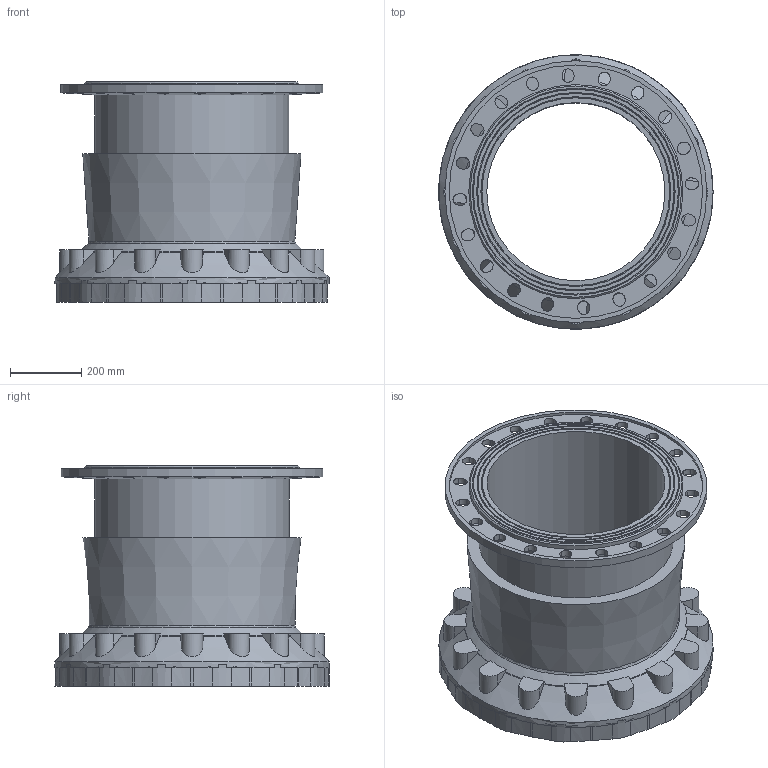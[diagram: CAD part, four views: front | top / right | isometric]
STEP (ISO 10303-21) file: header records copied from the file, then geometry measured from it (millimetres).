
FILE_DESCRIPTION (( 'STEP AP203' ), '1' );
FILE_NAME ('O_633_00_DN500_AA0.step', '2018-07-03T05:52:21', ( 'Windows User' ), ( 'AVK' ), 'SwSTEP 2.0', 'SolidWorks 2012', '' );
FILE_SCHEMA (( 'CONFIG_CONTROL_DESIGN' ));
Length unit declared in the file: millimetre
Products named in the file (1): O_633_00_DN500_AA0
Bounding box: 769.21 x 770.98 x 619.23 mm (x, y, z)
Volume: 67397529.6 mm3; surface area: 3128135 mm2
Topology: 1 solids, 1 shells, 345 faces, 991 edges, 657 vertices
Faces by surface type: cylinder 210, plane 91, cone 39, torus 4, bspline 1
Full cylindrical faces by diameter (mm): 500 x1, 545 x1, 601 x1, 711 x1, 735 x1, 770 x1
Entity records: 14867 total; most frequent: CARTESIAN_POINT 5945, ORIENTED_EDGE 1932, DIRECTION 1736, EDGE_CURVE 966, AXIS2_PLACEMENT_3D 672, VERTEX_POINT 653, EDGE_LOOP 417, LINE 392
